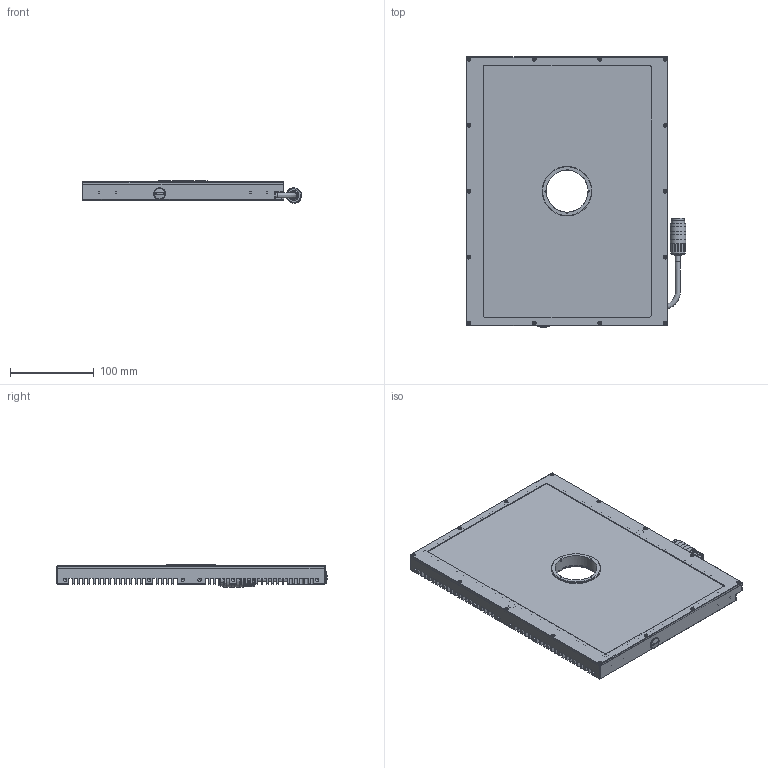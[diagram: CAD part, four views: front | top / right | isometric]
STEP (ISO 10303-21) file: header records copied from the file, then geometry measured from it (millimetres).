
FILE_DESCRIPTION(/* description */ ('CAx-IF Rec.Pracs.---Representation and Presentation of Product Manufacturing Information (PMI)---4.0---2014-10-13','CAx-IF Rec.Pracs.---3D Tessellated Geometry---0.4---2014-09-14','2;1'),/* implementation_level */ '2;1');
FILE_NAME(/* name */ 'LGCB3020-LGCB3020FL-V02',/* time_stamp */ '2019-12-03T13:13:50+01:00',/* author */ (''),/* organization */ ('iiM AG'),/* preprocessor_version */ 'ST-DEVELOPER v16.7',/* originating_system */ 'DEX',/* authorisation */ $);
FILE_SCHEMA (('AP242_MANAGED_MODEL_BASED_3D_ENGINEERING_MIM_LF { 1 0 10303 442 1 1 4 }'));
Products named in the file (1): LGCB3020-V02_MO
Bounding box: 261.29 x 321.95 x 26.79 mm (x, y, z)
Volume: 730056.8 mm3; surface area: 477981.3 mm2
Topology: 2 solids, 17 shells, 1384 faces, 3757 edges, 2422 vertices
Faces by surface type: plane 669, cylinder 457, cone 209, torus 18, bspline 18, sphere 13
Full cylindrical faces by diameter (mm): 1 x12, 1.567 x28, 2 x14, 2.1 x10, 2.11 x4, 2.459 x4, 3.8 x14, 4.134 x54, 6 x2, 6.2 x1, 8 x1, 9 x1, 11 x3, 11.89 x1, 14 x1, 15 x1, 16 x1, 17.5 x1, 18.5 x3, 18.6 x2, 50 x1, 51 x1, 54 x2, 55 x1, 58 x1, 59 x1
Entity records: 55970 total; most frequent: CARTESIAN_POINT 14407, ORIENTED_EDGE 6448, DIRECTION 6233, EDGE_CURVE 3224, VERTEX_POINT 2265, AXIS2_PLACEMENT_3D 2234, FACE_BOUND 1817, LINE 1765
